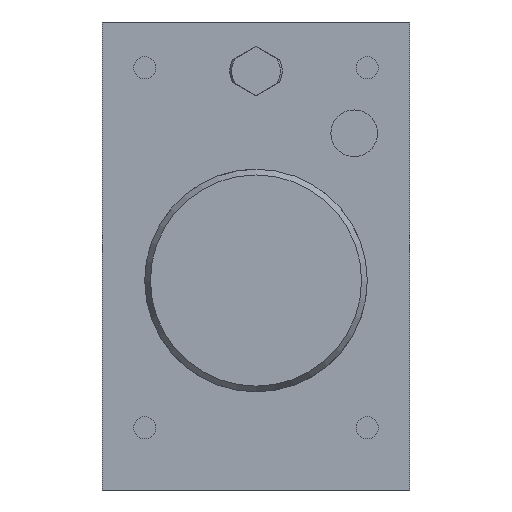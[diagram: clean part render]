
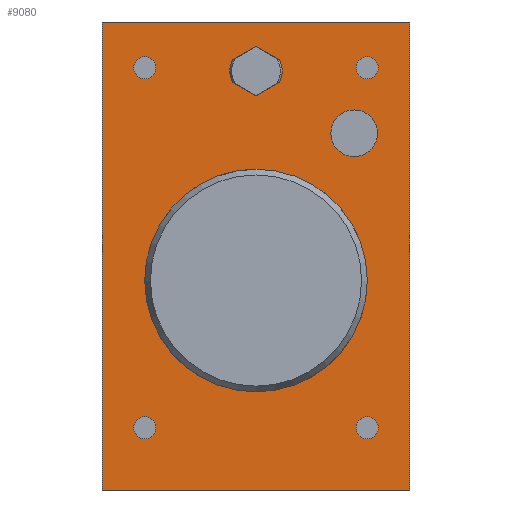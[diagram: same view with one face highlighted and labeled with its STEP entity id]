
A CAD part, left-side view. The second image highlights one B-rep face of the part: STEP entity #9080.
In plain terms, the highlighted planar face has unit normal (-1, 0, 0).
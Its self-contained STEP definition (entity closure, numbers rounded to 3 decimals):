
#4150=CIRCLE('',#8646,7.135);
#4151=CIRCLE('',#8647,34.);
#4152=CIRCLE('',#8648,8.);
#4153=CIRCLE('',#8649,8.);
#4154=CIRCLE('',#8650,3.4);
#4155=CIRCLE('',#8651,3.4);
#4156=CIRCLE('',#8652,3.4);
#4157=CIRCLE('',#8653,3.4);
#4528=ORIENTED_EDGE('',*,*,#5889,.F.);
#4529=ORIENTED_EDGE('',*,*,#6000,.F.);
#4530=ORIENTED_EDGE('',*,*,#5869,.F.);
#4531=ORIENTED_EDGE('',*,*,#5880,.F.);
#4532=ORIENTED_EDGE('',*,*,#6001,.F.);
#4533=ORIENTED_EDGE('',*,*,#6002,.F.);
#4534=ORIENTED_EDGE('',*,*,#6003,.F.);
#4535=ORIENTED_EDGE('',*,*,#6004,.F.);
#4536=ORIENTED_EDGE('',*,*,#6005,.F.);
#4537=ORIENTED_EDGE('',*,*,#6006,.F.);
#4538=ORIENTED_EDGE('',*,*,#6007,.F.);
#4539=ORIENTED_EDGE('',*,*,#6008,.F.);
#4540=ORIENTED_EDGE('',*,*,#6009,.T.);
#4541=ORIENTED_EDGE('',*,*,#6010,.T.);
#4542=ORIENTED_EDGE('',*,*,#6011,.T.);
#4543=ORIENTED_EDGE('',*,*,#6012,.T.);
#5047=VECTOR('',#6794,1.);
#5057=VECTOR('',#6808,1.);
#5065=VECTOR('',#6820,1.);
#5144=VECTOR('',#7075,1.);
#5145=VECTOR('',#7082,1.);
#5146=VECTOR('',#7083,1.);
#5147=VECTOR('',#7086,1.);
#5148=VECTOR('',#7087,1.);
#5318=LINE('',#7731,#5047);
#5328=LINE('',#7752,#5057);
#5336=LINE('',#7769,#5065);
#5415=LINE('',#8005,#5144);
#5416=LINE('',#8013,#5145);
#5417=LINE('',#8015,#5146);
#5418=LINE('',#8019,#5147);
#5419=LINE('',#8021,#5148);
#5585=VERTEX_POINT('',#7728);
#5586=VERTEX_POINT('',#7730);
#5595=VERTEX_POINT('',#7750);
#5602=VERTEX_POINT('',#7767);
#5672=VERTEX_POINT('',#8007);
#5673=VERTEX_POINT('',#8009);
#5674=VERTEX_POINT('',#8011);
#5675=VERTEX_POINT('',#8012);
#5676=VERTEX_POINT('',#8014);
#5677=VERTEX_POINT('',#8016);
#5678=VERTEX_POINT('',#8018);
#5679=VERTEX_POINT('',#8020);
#5680=VERTEX_POINT('',#8023);
#5681=VERTEX_POINT('',#8025);
#5682=VERTEX_POINT('',#8027);
#5683=VERTEX_POINT('',#8029);
#5869=EDGE_CURVE('',#5585,#5586,#5318,.T.);
#5880=EDGE_CURVE('',#5595,#5585,#5328,.T.);
#5889=EDGE_CURVE('',#5602,#5595,#5336,.T.);
#6000=EDGE_CURVE('',#5586,#5602,#5415,.T.);
#6001=EDGE_CURVE('',#5672,#5672,#4150,.T.);
#6002=EDGE_CURVE('',#5673,#5673,#4151,.T.);
#6003=EDGE_CURVE('',#5674,#5675,#5416,.T.);
#6004=EDGE_CURVE('',#5676,#5674,#5417,.T.);
#6005=EDGE_CURVE('',#5677,#5676,#4152,.T.);
#6006=EDGE_CURVE('',#5678,#5677,#5418,.T.);
#6007=EDGE_CURVE('',#5679,#5678,#5419,.T.);
#6008=EDGE_CURVE('',#5675,#5679,#4153,.T.);
#6009=EDGE_CURVE('',#5680,#5680,#4154,.T.);
#6010=EDGE_CURVE('',#5681,#5681,#4155,.T.);
#6011=EDGE_CURVE('',#5682,#5682,#4156,.T.);
#6012=EDGE_CURVE('',#5683,#5683,#4157,.T.);
#6322=EDGE_LOOP('',(#4528,#4529,#4530,#4531));
#6323=EDGE_LOOP('',(#4532));
#6324=EDGE_LOOP('',(#4533));
#6325=EDGE_LOOP('',(#4534,#4535,#4536,#4537,#4538,#4539));
#6326=EDGE_LOOP('',(#4540));
#6327=EDGE_LOOP('',(#4541));
#6328=EDGE_LOOP('',(#4542));
#6329=EDGE_LOOP('',(#4543));
#6575=FACE_BOUND('',#6322,.T.);
#6576=FACE_BOUND('',#6323,.T.);
#6577=FACE_BOUND('',#6324,.T.);
#6578=FACE_BOUND('',#6325,.T.);
#6579=FACE_BOUND('',#6326,.T.);
#6580=FACE_BOUND('',#6327,.T.);
#6581=FACE_BOUND('',#6328,.T.);
#6582=FACE_BOUND('',#6329,.T.);
#6794=DIRECTION('',(0.,0.,143.));
#6808=DIRECTION('',(0.,94.,0.));
#6820=DIRECTION('',(0.,0.,-143.));
#7075=DIRECTION('',(0.,-94.,0.));
#7076=DIRECTION('',(-1.,0.,0.));
#7077=DIRECTION('',(0.,1.,0.));
#7078=DIRECTION('',(-1.,0.,0.));
#7079=DIRECTION('',(0.,7.135,0.));
#7080=DIRECTION('',(-1.,0.,0.));
#7081=DIRECTION('',(0.,34.,0.));
#7082=DIRECTION('',(0.,7.289,-4.208));
#7083=DIRECTION('',(0.,7.289,4.208));
#7084=DIRECTION('',(-1.,0.,0.));
#7085=DIRECTION('',(0.,-7.289,-3.297));
#7086=DIRECTION('',(0.,-7.289,4.208));
#7087=DIRECTION('',(0.,-7.289,-4.208));
#7088=DIRECTION('',(-1.,0.,0.));
#7089=DIRECTION('',(0.,7.289,3.297));
#7090=DIRECTION('',(1.,0.,0.));
#7091=DIRECTION('',(0.,0.,-3.4));
#7092=DIRECTION('',(1.,0.,0.));
#7093=DIRECTION('',(0.,0.,-3.4));
#7094=DIRECTION('',(1.,0.,0.));
#7095=DIRECTION('',(0.,0.,-3.4));
#7096=DIRECTION('',(1.,0.,0.));
#7097=DIRECTION('',(0.,0.,-3.4));
#7728=CARTESIAN_POINT('',(0.,47.,-64.));
#7730=CARTESIAN_POINT('',(0.,47.,79.));
#7731=CARTESIAN_POINT('',(0.,47.,-64.));
#7750=CARTESIAN_POINT('',(0.,-47.,-64.));
#7752=CARTESIAN_POINT('',(0.,-47.,-64.));
#7767=CARTESIAN_POINT('',(0.,-47.,79.));
#7769=CARTESIAN_POINT('',(0.,-47.,79.));
#8005=CARTESIAN_POINT('',(0.,47.,79.));
#8006=CARTESIAN_POINT('',(0.,-47.,79.));
#8007=CARTESIAN_POINT('',(0.,-22.865,45.));
#8008=CARTESIAN_POINT('',(0.,-30.,45.));
#8009=CARTESIAN_POINT('',(0.,17.384,29.22));
#8010=CARTESIAN_POINT('',(0.,0.,0.));
#8011=CARTESIAN_POINT('',(0.,0.,71.506));
#8012=CARTESIAN_POINT('',(0.,7.289,67.297));
#8013=CARTESIAN_POINT('',(0.,0.,71.506));
#8014=CARTESIAN_POINT('',(0.,-7.289,67.297));
#8015=CARTESIAN_POINT('',(0.,-7.289,67.297));
#8016=CARTESIAN_POINT('',(0.,-7.289,60.703));
#8017=CARTESIAN_POINT('',(0.,0.,64.));
#8018=CARTESIAN_POINT('',(0.,0.,56.494));
#8019=CARTESIAN_POINT('',(0.,0.,56.494));
#8020=CARTESIAN_POINT('',(0.,7.289,60.703));
#8021=CARTESIAN_POINT('',(0.,7.289,60.703));
#8022=CARTESIAN_POINT('',(0.,0.,64.));
#8023=CARTESIAN_POINT('',(0.,-34.,-48.4));
#8024=CARTESIAN_POINT('',(0.,-34.,-45.));
#8025=CARTESIAN_POINT('',(0.,34.,-48.4));
#8026=CARTESIAN_POINT('',(0.,34.,-45.));
#8027=CARTESIAN_POINT('',(0.,-34.,61.6));
#8028=CARTESIAN_POINT('',(0.,-34.,65.));
#8029=CARTESIAN_POINT('',(0.,34.,61.6));
#8030=CARTESIAN_POINT('',(0.,34.,65.));
#8645=AXIS2_PLACEMENT_3D('',#8006,#7076,#7077);
#8646=AXIS2_PLACEMENT_3D('',#8008,#7078,#7079);
#8647=AXIS2_PLACEMENT_3D('',#8010,#7080,#7081);
#8648=AXIS2_PLACEMENT_3D('',#8017,#7084,#7085);
#8649=AXIS2_PLACEMENT_3D('',#8022,#7088,#7089);
#8650=AXIS2_PLACEMENT_3D('',#8024,#7090,#7091);
#8651=AXIS2_PLACEMENT_3D('',#8026,#7092,#7093);
#8652=AXIS2_PLACEMENT_3D('',#8028,#7094,#7095);
#8653=AXIS2_PLACEMENT_3D('',#8030,#7096,#7097);
#8921=PLANE('',#8645);
#9080=ADVANCED_FACE('',(#6575,#6576,#6577,#6578,#6579,#6580,#6581,#6582),
#8921,.T.);
